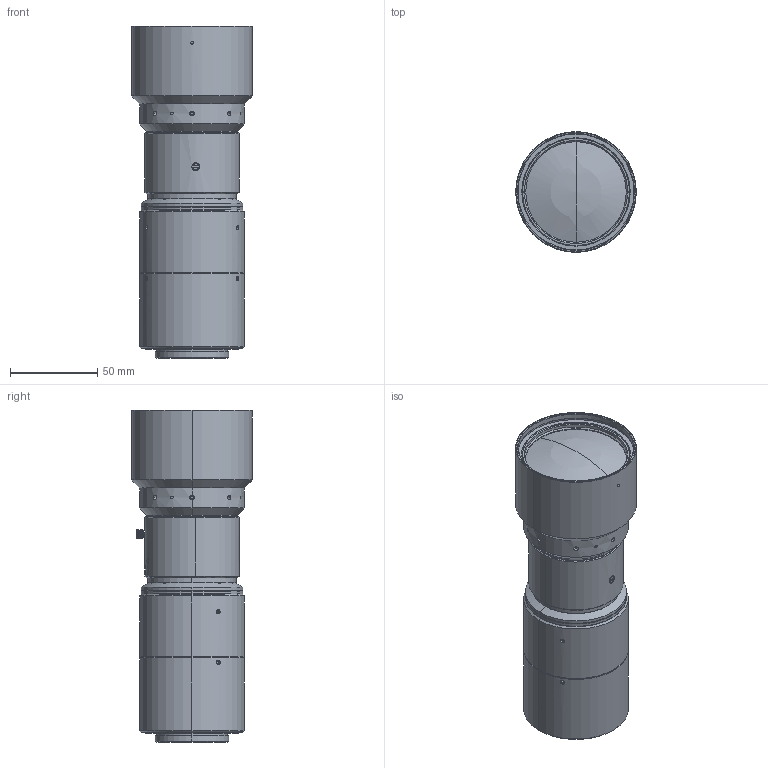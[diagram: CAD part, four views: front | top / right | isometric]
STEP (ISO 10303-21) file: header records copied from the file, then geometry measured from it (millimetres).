
FILE_DESCRIPTION (( 'STEP AP214' ), '1' );
FILE_NAME ('MML1-HR130VI-35P-FB11.48.STEP', '2022-10-09T05:46:39', ( '' ), ( '' ), 'SwSTEP 2.0', 'SolidWorks 2020', '' );
FILE_SCHEMA (( 'AUTOMOTIVE_DESIGN' ));
Length unit declared in the file: millimetre
Products named in the file (1): MML1-HR130VI-35P-FB11.48
Bounding box: 69 x 69 x 189.83 mm (x, y, z)
Volume: 417084.8 mm3; surface area: 58364.1 mm2
Topology: 1 solids, 1 shells, 628 faces, 1604 edges, 1041 vertices
Faces by surface type: plane 228, cone 210, cylinder 166, bspline 18, sphere 4, torus 2
Entity records: 24760 total; most frequent: CARTESIAN_POINT 10165, ORIENTED_EDGE 3198, DIRECTION 2773, EDGE_CURVE 1599, VERTEX_POINT 1040, AXIS2_PLACEMENT_3D 1039, EDGE_LOOP 695, VECTOR 695
